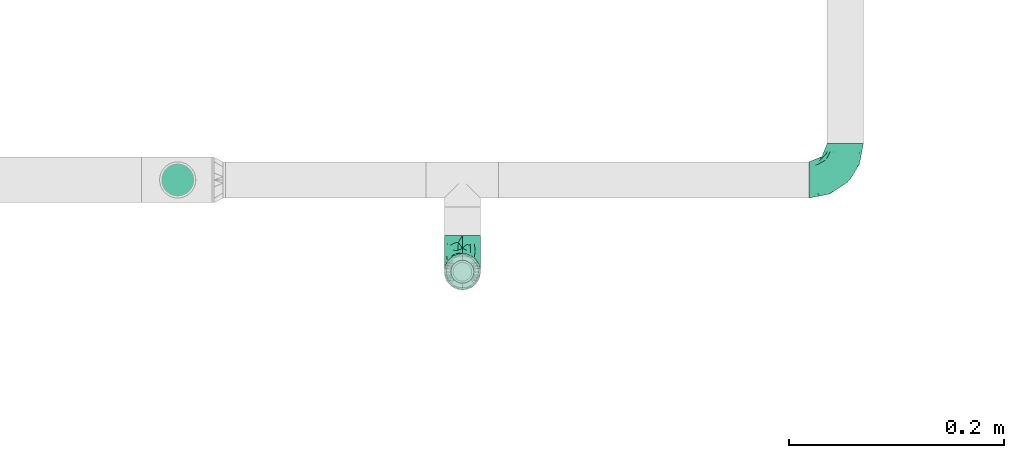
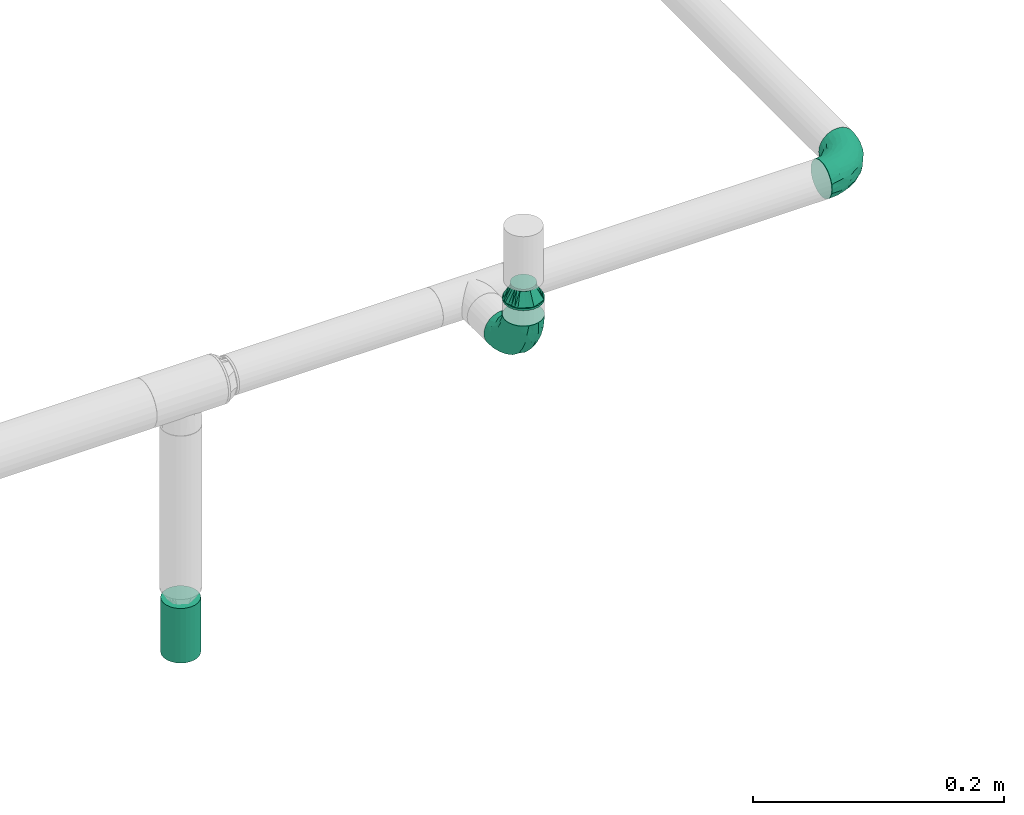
# One storey, part 68 of 95: 3 flow fittings, 1 flow terminal.
"""IFC2X3 building model written with IfcOpenShell, lengths in millimetres."""

import ifcopenshell
import ifcopenshell.guid

model = None  # the IFC model being written
_history = None  # IfcOwnerHistory: only IFC2X3 demands one
_inside = {}  # id of a spatial element -> (the spatial element, [elements in it])
_under = {}  # id of a project, library or spatial element -> (it, [spatial elements below it])
_declared = {}  # id of a project -> (the project, [libraries it declares])
_typed = {}  # id of a type object -> (the type object, [elements of that type])
_made_of = {}  # id of a material, layer set ... -> (it, [elements and type objects made of it])


def new_model(schema):
    """Start an empty IFC model of exactly this schema.

    Asked for "IFC4X3", IfcOpenShell would pick the latest addendum, in which some entities
    have other attributes; the version numbers below select the first issue.
    IFC2X3 requires an IfcOwnerHistory on every rooted entity: one is made here for all.
    """
    global model, _history
    if schema == "IFC4X3":
        model = ifcopenshell.file(schema_version=(4, 3, 0, 0))
    else:
        model = ifcopenshell.file(schema=schema)
    _inside.clear()
    _under.clear()
    _declared.clear()
    _typed.clear()
    _made_of.clear()
    _history = None
    if model.schema == "IFC2X3":
        org = make("IfcOrganization", Name="unknown")
        user = make(
            "IfcPersonAndOrganization",
            ThePerson=make("IfcPerson", FamilyName="unknown"),
            TheOrganization=org,
        )
        app = make(
            "IfcApplication",
            ApplicationDeveloper=org,
            Version="unknown",
            ApplicationFullName="unknown",
            ApplicationIdentifier="unknown",
        )
        _history = make(
            "IfcOwnerHistory",
            OwningUser=user,
            OwningApplication=app,
            ChangeAction="ADDED",
            CreationDate=0,
        )
    return model


def make(cls, **values):
    """One entity of the class cls with the attributes given. An attribute that is None is left unset."""
    return model.create_entity(
        cls, **{name: value for name, value in values.items() if value is not None}
    )


def entity(cls, *values):
    """Any entity or typed value of the class cls, its attributes in the order of the schema. None: left unset."""
    e = model.create_entity(cls)
    for i, value in enumerate(values):
        if value is not None:
            e[i] = value
    return e


def rooted(cls, **values):
    """An entity with a GlobalId (a new one), such as an element, a storey or a relation."""
    return make(cls, GlobalId=ifcopenshell.guid.new(), OwnerHistory=_history, **values)


def si_unit(unit_type, name, prefix=None):
    """IfcSIUnit, for example si_unit("LENGTHUNIT", "METRE", prefix="MILLI")."""
    return make("IfcSIUnit", UnitType=unit_type, Prefix=prefix, Name=name)


def converted_unit(unit_type, name, factor, base, dimensions=None, offset=None):
    """IfcConversionBasedUnit, such as the inch: factor (a typed value) times the base unit."""
    return make(
        "IfcConversionBasedUnit"
        if offset is None
        else "IfcConversionBasedUnitWithOffset",
        ConversionOffset=offset,
        Dimensions=None
        if dimensions is None
        else entity("IfcDimensionalExponents", *dimensions),
        UnitType=unit_type,
        Name=name,
        ConversionFactor=make(
            "IfcMeasureWithUnit", ValueComponent=factor, UnitComponent=base
        ),
    )


def derived_unit(unit_type, elements):
    """IfcDerivedUnit: a product of units, each with its exponent."""
    return make(
        "IfcDerivedUnit",
        Elements=[
            make("IfcDerivedUnitElement", Unit=unit, Exponent=power)
            for unit, power in elements
        ],
        UnitType=unit_type,
    )


def assignment(units):
    """IfcUnitAssignment: the units of a project."""
    return None if units is None else make("IfcUnitAssignment", Units=units)


def point(xyz):
    """IfcCartesianPoint."""
    return None if xyz is None else make("IfcCartesianPoint", Coordinates=xyz)


def direction(xyz):
    """IfcDirection."""
    return None if xyz is None else make("IfcDirection", DirectionRatios=xyz)


def frame(location, z_axis=None, x_axis=None):
    """IfcAxis2Placement3D, a coordinate frame: its origin and axes. An axis left out is left unset."""
    return make(
        "IfcAxis2Placement3D",
        Location=point(location),
        Axis=direction(z_axis),
        RefDirection=direction(x_axis),
    )


def origin_with_axes():
    """The frame at (0, 0, 0) with the z axis (0, 0, 1) and the x axis (1, 0, 0) written out."""
    return frame((0.0, 0.0, 0.0), z_axis=(0.0, 0.0, 1.0), x_axis=(1.0, 0.0, 0.0))


def place(relative_to, where):
    """IfcLocalPlacement: puts the frame where relative to a parent placement (None: the world)."""
    return make(
        "IfcLocalPlacement", PlacementRelTo=relative_to, RelativePlacement=where
    )


def context(
    kind, dimensions, precision=None, world=None, true_north=None, identifier=None
):
    """IfcGeometricRepresentationContext, for example the 3D "Model" context."""
    return make(
        "IfcGeometricRepresentationContext",
        ContextIdentifier=identifier,
        ContextType=kind,
        CoordinateSpaceDimension=dimensions,
        Precision=precision,
        WorldCoordinateSystem=world,
        TrueNorth=true_north,
    )


def subcontext(parent, identifier, kind, view, scale=None):
    """IfcGeometricRepresentationSubContext, for example "Body" below "Model"."""
    return make(
        "IfcGeometricRepresentationSubContext",
        ContextIdentifier=identifier,
        ContextType=kind,
        ParentContext=parent,
        TargetScale=scale,
        TargetView=view,
    )


def project(units=None, contexts=None):
    """IfcProject with its units and contexts."""
    return rooted(
        "IfcProject",
        Name="project",
        RepresentationContexts=contexts,
        UnitsInContext=assignment(units),
    )


def spatial(cls, under=None, at=None, **own):
    """A site, building, storey or space (cls), placed at a placement, below another one or the project."""
    s = rooted(cls, ObjectPlacement=at, **own)
    if under is not None:
        _under.setdefault(under.id(), (under, []))[1].append(s)
    return s


def faces_of(points, faces, orient=None, outer=None):
    """IfcFace entities. A face is a list of loops; a loop is a list of indices into points, from 0.

    orient and outer hold one flag for each loop. By default every Orientation is true, the
    first loop of a face is its IfcFaceOuterBound and the others are IfcFaceBound.
    """
    made = []
    for i, loops in enumerate(faces):
        bounds = []
        for j, loop in enumerate(loops):
            is_outer = j == 0 if outer is None else outer[i][j]
            bounds.append(
                make(
                    "IfcFaceOuterBound" if is_outer else "IfcFaceBound",
                    Bound=make("IfcPolyLoop", Polygon=[points[k] for k in loop]),
                    Orientation=True if orient is None else orient[i][j],
                )
            )
        made.append(make("IfcFace", Bounds=bounds))
    return made


def open_shell(faces, orient=None, outer=None):
    """The faces of one IfcOpenShell. surface_model builds it on its shared points."""
    return ("IfcOpenShell", faces, orient, outer)


def surface_model(cls, points, shells):
    """IfcFaceBasedSurfaceModel or IfcShellBasedSurfaceModel (cls): surfaces that need not close."""
    shared = [point(p) for p in points]
    made = [make(c, CfsFaces=faces_of(shared, fs, o, b)) for c, fs, o, b in shells]
    if cls == "IfcFaceBasedSurfaceModel":
        return make(cls, FbsmFaces=made)
    return make(cls, SbsmBoundary=made)


def shape(context_of_items, identifier, shape_type, items):
    """IfcShapeRepresentation: the items that make up one representation, for example the "Body"."""
    return make(
        "IfcShapeRepresentation",
        ContextOfItems=context_of_items,
        RepresentationIdentifier=identifier,
        RepresentationType=shape_type,
        Items=items,
    )


def source(mapping_origin, context_of_items, identifier, shape_type, items):
    """IfcRepresentationMap: a shape defined once, which mapped items show again and again."""
    return make(
        "IfcRepresentationMap",
        MappingOrigin=mapping_origin,
        MappedRepresentation=shape(context_of_items, identifier, shape_type, items),
    )


def transform(
    local_origin,
    x_axis=None,
    y_axis=None,
    z_axis=None,
    scale=None,
    scale2=None,
    scale3=None,
    uniform=True,
):
    """IfcCartesianTransformationOperator3D, or its non-uniform kind. x_axis, y_axis, z_axis: its Axis1, 2, 3."""
    if uniform:
        return make(
            "IfcCartesianTransformationOperator3D",
            Axis1=direction(x_axis),
            Axis2=direction(y_axis),
            LocalOrigin=point(local_origin),
            Scale=scale,
            Axis3=direction(z_axis),
        )
    return make(
        "IfcCartesianTransformationOperator3DnonUniform",
        Axis1=direction(x_axis),
        Axis2=direction(y_axis),
        LocalOrigin=point(local_origin),
        Scale=scale,
        Axis3=direction(z_axis),
        Scale2=scale2,
        Scale3=scale3,
    )


def mapped(mapping_source, mapping_target):
    """IfcMappedItem: shows the shape of a source again, moved by a transform."""
    return make(
        "IfcMappedItem", MappingSource=mapping_source, MappingTarget=mapping_target
    )


def made_of(thing, what):
    """Note that an element or type object is made of a material, layer set ...; save() writes the relation."""
    if what is not None:
        _made_of.setdefault(what.id(), (what, []))[1].append(thing)
    return thing


def type_object(cls, material=None, **own):
    """A type object (cls), such as IfcWallType, which elements share."""
    return made_of(rooted(cls, **own), material)


def element(
    cls,
    number,
    at=None,
    inside=None,
    cuts=None,
    type_object=None,
    material=None,
    context=None,
    identifier="Body",
    shape_type=None,
    held_by="IfcProductDefinitionShape",
    body=None,
    shapes=None,
    **own,
):
    """One element of the class cls, such as IfcWall. Its Tag is "e" and its number.

    at: its placement. inside: the storey or other place that contains it. cuts: it is an
    opening in that element (IfcRelVoidsElement). A single representation is given by context,
    identifier, shape_type and body (its items); several are given by shapes. held_by: the class
    of the entity that holds the representations. save() writes the other relations.
    """
    e = rooted(cls, Tag="e%d" % number, ObjectPlacement=at, **own)
    if body is not None:
        shapes = [shape(context, identifier, shape_type, body)]
    if shapes is not None:
        e.Representation = make(held_by, Representations=shapes)
    if inside is not None:
        _inside.setdefault(inside.id(), (inside, []))[1].append(e)
    if cuts is not None:
        rooted(
            "IfcRelVoidsElement", RelatingBuildingElement=cuts, RelatedOpeningElement=e
        )
    if type_object is not None:
        _typed.setdefault(type_object.id(), (type_object, []))[1].append(e)
    return made_of(e, material)


def aggregate(whole, parts):
    """IfcRelAggregates: a whole, such as a stair, and the parts it consists of."""
    return rooted("IfcRelAggregates", RelatingObject=whole, RelatedObjects=parts)


def save(model, path):
    """Write the relations noted so far, then the file.

    IfcRelAggregates (storeys below a building ...), IfcRelContainedInSpatialStructure (elements
    in a storey), IfcRelDefinesByType, IfcRelAssociatesMaterial and IfcRelDeclares: one each for
    every whole, place, type object, material and project.
    """
    for whole, parts in _under.values():
        aggregate(whole, parts)
    for where, things in _inside.values():
        rooted(
            "IfcRelContainedInSpatialStructure",
            RelatedElements=things,
            RelatingStructure=where,
        )
    for kind, things in _typed.values():
        rooted("IfcRelDefinesByType", RelatedObjects=things, RelatingType=kind)
    for what, things in _made_of.values():
        rooted("IfcRelAssociatesMaterial", RelatedObjects=things, RelatingMaterial=what)
    for by, libraries in _declared.values():
        rooted("IfcRelDeclares", RelatingContext=by, RelatedDefinitions=libraries)
    model.write(path)


model = new_model("IFC2X3")

# Units and contexts
model_context = context("Model", 3, precision=0.01, world=frame((0.0, 4.29681676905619e-09, 0.0)), true_north=direction((4.01073788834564e-13, 1.0)))
plan_context = context("Plan", 3, precision=0.01, world=frame((0.0, 4.29681676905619e-09, 0.0)), true_north=direction((4.01073788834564e-13, 1.0)))
body_context = subcontext(model_context, "Body", "Model", "MODEL_VIEW")
ifc_project = project(units=[converted_unit("PLANEANGLEUNIT", "DEGREE", entity("IfcPositiveLengthMeasure", 0.0174532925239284), si_unit("PLANEANGLEUNIT", "RADIAN"), dimensions=[0, 0, 0, 0, 0, 0, 0]), si_unit("AREAUNIT", "SQUARE_METRE"), si_unit("LENGTHUNIT", "METRE", prefix="MILLI"), si_unit("MASSUNIT", "GRAM", prefix="KILO"), si_unit("POWERUNIT", "WATT"), si_unit("PRESSUREUNIT", "PASCAL"), si_unit("FORCEUNIT", "NEWTON", prefix="KILO"), si_unit("ELECTRICVOLTAGEUNIT", "VOLT"), si_unit("ELECTRICCURRENTUNIT", "AMPERE"), si_unit("THERMODYNAMICTEMPERATUREUNIT", "DEGREE_CELSIUS"), si_unit("TIMEUNIT", "SECOND"), si_unit("VOLUMEUNIT", "CUBIC_METRE"), derived_unit("LINEARVELOCITYUNIT", [(si_unit("LENGTHUNIT", "METRE"), 1), (si_unit("TIMEUNIT", "SECOND"), -1)]), derived_unit("VOLUMETRICFLOWRATEUNIT", [(si_unit("VOLUMEUNIT", "CUBIC_METRE"), 1), (si_unit("TIMEUNIT", "SECOND"), -1)]), derived_unit("THERMALTRANSMITTANCEUNIT", [(si_unit("POWERUNIT", "WATT"), 1), (si_unit("THERMODYNAMICTEMPERATUREUNIT", "KELVIN"), -1), (si_unit("AREAUNIT", "SQUARE_METRE"), -1)]), derived_unit("SOUNDPRESSUREUNIT", [(si_unit("PRESSUREUNIT", "PASCAL"), 1)])], contexts=[model_context, plan_context])

# Site, building, storey
site_placement = place(None, frame((0.0, -4.29681676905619e-09, 0.0), z_axis=(0.0, 0.0, 1.0), x_axis=(1.0, 0.0, 0.0)))
site = spatial("IfcSite", under=ifc_project, at=site_placement, CompositionType="ELEMENT")
building_placement = place(site_placement, frame((0.0, 4.29681676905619e-09, 0.0), z_axis=(0.0, 0.0, 1.0), x_axis=(1.0, 0.0, 0.0)))
building = spatial("IfcBuilding", under=site, at=building_placement, Name="mc-building", CompositionType="ELEMENT")
storey_placement = place(building_placement, frame((0.0, 0.0, 210900.0), z_axis=(0.0, 0.0, 1.0), x_axis=(1.0, 0.0, 0.0)))
storey = spatial("IfcBuildingStorey", under=building, at=storey_placement, Name="Nivå F", CompositionType="ELEMENT", Elevation=210900.0)

# Flow fittings
pipe_fitting_type_1 = type_object("IfcPipeFittingType", Name="magi_pipe_fe_reducer_centric_short_NOR", PredefinedType="TRANSITION")
shared_shape_1 = source(origin_with_axes(), body_context, "Body", "SurfaceModel", [
    surface_model("IfcShellBasedSurfaceModel", [(14.4, 5.35, -9.26647), (14.4, 0.0, -10.7), (14.4, 2.76936, -10.33541), (14.4, 10.33541, -2.76936), (14.4, 7.56604, -7.56604), (14.4, -10.33541, -2.76936), (14.4, 9.26647, -5.35), (14.4, 0.0, 10.7), (14.4, -5.35, -9.26647), (14.4, -2.76936, -10.33541), (14.4, -7.56604, -7.56604), (14.4, -9.26647, -5.35), (14.4, 10.7, 0.0), (14.4, 10.33541, 2.76936), (14.4, 9.26647, 5.35), (14.4, 7.56604, 7.56604), (14.4, 2.76936, 10.33541), (14.4, 5.35, 9.26647), (14.4, -10.33541, 2.76936), (14.4, -7.56604, 7.56604), (14.4, -9.26647, 5.35), (14.4, -10.7, 0.0), (14.4, -2.76936, 10.33541), (14.4, -5.35, 9.26647), (12.4, 2.76936, 10.33541), (12.4, -10.33541, -2.76936), (12.4, 0.0, 10.7), (12.4, 5.35, 9.26647), (12.4, 7.56604, 7.56604), (12.4, 9.26647, 5.35), (12.4, 10.33541, 2.76936), (12.4, -10.33541, 2.76936), (12.4, -2.76936, 10.33541), (12.4, -7.56604, 7.56604), (12.4, -5.35, 9.26647), (12.4, -9.26647, 5.35), (12.4, -10.7, 0.0), (12.4, 10.33541, -2.76936), (12.4, 5.35, -9.26647), (12.4, 9.26647, -5.35), (12.4, 7.56604, -7.56604), (12.4, 2.76936, -10.33541), (12.4, -9.26647, -5.35), (12.4, -5.35, -9.26647), (12.4, -7.56604, -7.56604), (12.4, 0.0, -10.7), (12.4, -2.76936, -10.33541), (12.4, 10.7, 0.0), (-2.0, 11.9501, 11.9501), (-2.0, 0.0, 16.9), (-2.0, 4.37404, 16.32415), (-2.0, 8.45, 14.63583), (-2.0, 14.63583, 8.45), (-2.0, 16.32415, 4.37404), (-2.0, -16.32415, 4.37404), (-2.0, -8.45, 14.63583), (-2.0, -14.63583, 8.45), (-2.0, -11.9501, 11.9501), (-2.0, -4.37404, 16.32415), (-2.0, -16.32415, -4.37404), (-2.0, -16.9, 0.0), (-2.0, -8.45, -14.63583), (-2.0, 16.32415, -4.37404), (-2.0, 11.9501, -11.9501), (-2.0, 14.63583, -8.45), (-2.0, 8.45, -14.63583), (-2.0, 4.37404, -16.32415), (-2.0, 0.0, -16.9), (-2.0, -11.9501, -11.9501), (-2.0, -14.63583, -8.45), (-2.0, -4.37404, -16.32415), (-2.0, 16.9, 0.0), (0.0, 4.37404, -16.32415), (0.0, 8.45, -14.63583), (0.0, 11.9501, -11.9501), (0.0, 0.0, -16.9), (0.0, 16.32415, -4.37404), (0.0, 16.32415, 4.37404), (0.0, 14.63583, -8.45), (0.0, -8.45, -14.63583), (0.0, -4.37404, -16.32415), (0.0, -11.9501, -11.9501), (0.0, -16.32415, -4.37404), (0.0, -14.63583, -8.45), (0.0, -16.32415, 4.37404), (0.0, 16.9, 0.0), (0.0, 14.63583, 8.45), (0.0, 11.9501, 11.9501), (0.0, 4.37404, 16.32415), (0.0, 8.45, 14.63583), (0.0, 0.0, 16.9), (0.0, -14.63583, 8.45), (0.0, -16.9, 0.0), (0.0, -8.45, 14.63583), (0.0, -11.9501, 11.9501), (0.0, -4.37404, 16.32415), (12.4, 9.3625, -2.31662), (0.0, 14.42505, -5.97505), (0.0, 15.66253, -2.98753), (12.4, -6.6875, -6.94985), (0.0, -13.18758, -8.96258), (0.0, 2.98753, -15.66253), (12.4, 0.0, -9.26647), (12.4, 6.6875, -6.94985), (0.0, 8.96258, -13.18758), (12.4, -9.3625, -2.31662), (0.0, -15.66253, -2.98753), (0.0, -14.42505, -5.97505), (0.0, 5.97505, -14.42505), (0.0, -2.98753, -15.66253), (0.0, -8.96258, -13.18758), (0.0, 13.18758, -8.96258), (12.4, 8.025, -4.63324), (12.4, -2.675, -9.26647), (12.4, 2.675, -9.26647), (0.0, -5.97505, -14.42505), (12.4, -8.025, -4.63324), (12.4, -9.3625, 2.31662), (0.0, -14.42505, 5.97505), (0.0, -15.66253, 2.98753), (12.4, 6.6875, 6.94985), (0.0, 13.18758, 8.96258), (0.0, -2.98753, 15.66253), (12.4, 0.0, 9.26647), (12.4, -6.6875, 6.94985), (0.0, -8.96258, 13.18758), (12.4, 9.3625, 2.31662), (0.0, 15.66253, 2.98753), (0.0, 14.42505, 5.97505), (0.0, -5.97505, 14.42505), (0.0, 2.98753, 15.66253), (0.0, 8.96258, 13.18758), (0.0, -13.18758, 8.96258), (12.4, -8.025, 4.63324), (12.4, 2.675, 9.26647), (12.4, -2.675, 9.26647), (0.0, 5.97505, 14.42505), (12.4, 8.025, 4.63324)], [open_shell([[[0, 1, 2]], [[3, 0, 4]], [[5, 0, 3]], [[3, 4, 6]], [[7, 5, 3]], [[1, 8, 9]], [[1, 0, 8]], [[10, 5, 11]], [[5, 10, 8]], [[0, 5, 8]], [[3, 12, 13]], [[13, 14, 15]], [[13, 15, 16]], [[7, 3, 16]], [[16, 15, 17]], [[7, 18, 5]], [[18, 19, 20]], [[21, 5, 18]], [[19, 22, 23]], [[22, 19, 18]], [[7, 22, 18]], [[13, 16, 3]], [[24, 25, 26]], [[27, 25, 24]], [[28, 29, 30]], [[28, 25, 27]], [[31, 26, 25]], [[32, 33, 34]], [[33, 32, 31]], [[33, 31, 35]], [[32, 26, 31]], [[31, 25, 36]], [[30, 37, 28]], [[25, 28, 37]], [[38, 37, 39]], [[37, 38, 25]], [[38, 39, 40]], [[41, 25, 38]], [[42, 43, 44]], [[43, 42, 25]], [[43, 45, 46]], [[43, 25, 41]], [[41, 45, 43]], [[37, 30, 47]], [[25, 5, 36]], [[42, 11, 25]], [[8, 44, 43]], [[42, 44, 10]], [[9, 43, 46]], [[25, 11, 5]], [[5, 21, 36]], [[9, 8, 43]], [[10, 44, 8]], [[10, 11, 42]], [[1, 9, 46]], [[46, 45, 1]], [[41, 2, 45]], [[38, 0, 41]], [[6, 40, 39]], [[38, 40, 4]], [[3, 39, 37]], [[38, 4, 0]], [[0, 2, 41]], [[12, 3, 37]], [[6, 39, 3]], [[6, 4, 40]], [[47, 12, 37]], [[45, 2, 1]], [[30, 13, 47]], [[29, 14, 30]], [[17, 28, 27]], [[29, 28, 15]], [[16, 27, 24]], [[30, 14, 13]], [[13, 12, 47]], [[16, 17, 27]], [[15, 28, 17]], [[15, 14, 29]], [[7, 16, 24]], [[24, 26, 7]], [[32, 22, 26]], [[34, 23, 32]], [[20, 33, 35]], [[34, 33, 19]], [[18, 35, 31]], [[34, 19, 23]], [[23, 22, 32]], [[21, 18, 31]], [[20, 35, 18]], [[20, 19, 33]], [[36, 21, 31]], [[26, 22, 7]], [[48, 49, 50]], [[48, 50, 51]], [[48, 52, 53]], [[48, 53, 49]], [[49, 53, 54]], [[55, 56, 57]], [[55, 58, 49]], [[56, 55, 49]], [[49, 54, 56]], [[54, 59, 60]], [[54, 53, 61]], [[53, 62, 63]], [[63, 62, 64]], [[63, 65, 66]], [[61, 53, 63]], [[67, 63, 66]], [[59, 68, 69]], [[68, 59, 61]], [[61, 67, 70]], [[59, 54, 61]], [[63, 67, 61]], [[53, 71, 62]], [[72, 73, 74]], [[75, 72, 74]], [[74, 76, 77]], [[76, 74, 78]], [[74, 77, 79]], [[75, 79, 80]], [[75, 74, 79]], [[81, 82, 83]], [[82, 81, 79]], [[79, 84, 82]], [[77, 76, 85]], [[77, 86, 87]], [[77, 87, 88]], [[88, 84, 79]], [[88, 87, 89]], [[84, 88, 90]], [[90, 91, 84]], [[92, 82, 84]], [[91, 93, 94]], [[91, 90, 93]], [[93, 90, 95]], [[79, 77, 88]], [[59, 82, 60]], [[69, 83, 59]], [[79, 68, 61]], [[69, 68, 81]], [[80, 61, 70]], [[59, 83, 82]], [[82, 92, 60]], [[80, 79, 61]], [[81, 68, 79]], [[81, 83, 69]], [[75, 80, 70]], [[70, 67, 75]], [[66, 72, 67]], [[65, 73, 66]], [[78, 63, 64]], [[65, 63, 74]], [[76, 64, 62]], [[65, 74, 73]], [[73, 72, 66]], [[85, 76, 62]], [[78, 64, 76]], [[78, 74, 63]], [[71, 85, 62]], [[67, 72, 75]], [[53, 77, 71]], [[52, 86, 53]], [[89, 48, 51]], [[52, 48, 87]], [[88, 51, 50]], [[53, 86, 77]], [[77, 85, 71]], [[88, 89, 51]], [[87, 48, 89]], [[87, 86, 52]], [[90, 88, 50]], [[50, 49, 90]], [[58, 95, 49]], [[55, 93, 58]], [[91, 57, 56]], [[55, 57, 94]], [[84, 56, 54]], [[55, 94, 93]], [[93, 95, 58]], [[92, 84, 54]], [[91, 56, 84]], [[91, 94, 57]], [[60, 92, 54]], [[49, 95, 90]], [[27, 34, 47]], [[47, 34, 43]], [[43, 38, 47]], [[43, 34, 36]], [[90, 87, 94]], [[92, 94, 87]], [[87, 74, 92]], [[75, 92, 74]], [[81, 92, 75]], [[74, 87, 85]], [[96, 97, 98]], [[81, 99, 100]], [[101, 102, 75]], [[98, 85, 47]], [[74, 103, 104]], [[104, 103, 38]], [[105, 106, 107]], [[38, 108, 104]], [[102, 109, 75]], [[110, 99, 81]], [[47, 96, 98]], [[103, 111, 112]], [[109, 102, 113]], [[36, 92, 106]], [[102, 101, 114]], [[110, 115, 43]], [[96, 112, 97]], [[107, 116, 105]], [[36, 106, 105]], [[113, 115, 109]], [[43, 115, 113]], [[116, 107, 100]], [[108, 38, 114]], [[111, 103, 74]], [[111, 97, 112]], [[99, 110, 43]], [[116, 100, 99]], [[101, 108, 114]], [[117, 118, 119]], [[87, 120, 121]], [[122, 123, 90]], [[119, 92, 36]], [[94, 124, 125]], [[125, 124, 34]], [[126, 127, 128]], [[34, 129, 125]], [[123, 130, 90]], [[131, 120, 87]], [[36, 117, 119]], [[124, 132, 133]], [[130, 123, 134]], [[47, 85, 127]], [[123, 122, 135]], [[131, 136, 27]], [[117, 133, 118]], [[128, 137, 126]], [[47, 127, 126]], [[134, 136, 130]], [[27, 136, 134]], [[137, 128, 121]], [[129, 34, 135]], [[132, 124, 94]], [[132, 118, 133]], [[120, 131, 27]], [[137, 121, 120]], [[122, 129, 135]]])]),
])
flow_fitting_placement = place(storey_placement, frame((521865.41856, 456734.42495, 2650.78069000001), z_axis=(-1.0, 0.0, 0.0), x_axis=(0.0, 0.0, 1.0)))
element("IfcFlowFitting", 1, at=flow_fitting_placement, inside=storey, type_object=pipe_fitting_type_1, Name="magi_pipe_fe_reducer_centric_short_NOR", context=body_context, shape_type="MappedRepresentation", body=[
    mapped(shared_shape_1, transform((0.0, 0.0, 0.0), scale=1.0)),
])
pipe_fitting_type_2 = type_object("IfcPipeFittingType", Name="magi_pipe_fe_elbow_short_001", PredefinedType="BEND")
shared_shape_2 = source(origin_with_axes(), body_context, "Body", "SurfaceModel", [
    surface_model("IfcShellBasedSurfaceModel", [(-33.8, 8.45, -14.63583), (-33.8, 4.37404, -16.32415), (-33.8, 11.9501, -11.9501), (-33.8, -11.9501, -11.9501), (-33.8, -14.63583, -8.45), (-33.8, -8.45, -14.63583), (-33.8, 0.0, -16.9), (-33.8, -4.37404, -16.32415), (-33.8, -4.37404, 16.32415), (-33.8, 0.0, 16.9), (-33.8, -8.45, 14.63583), (-33.8, 16.32415, -4.37404), (-33.8, 14.63583, -8.45), (-33.8, -16.32415, -4.37404), (-33.8, -16.9, 0.0), (-33.8, -16.32415, 4.37404), (-33.8, 11.9501, 11.9501), (-33.8, 14.63583, 8.45), (-33.8, 16.32415, 4.37404), (-33.8, 4.37404, 16.32415), (-33.8, 8.45, 14.63583), (-33.8, -14.63583, 8.45), (-33.8, -11.9501, 11.9501), (-33.8, 16.9, 0.0), (-11.9501, 33.8, -11.9501), (0.0, 33.8, -16.9), (-4.37404, 33.8, -16.32415), (-8.45, 33.8, -14.63583), (-14.63583, 33.8, -8.45), (-16.32415, 33.8, -4.37404), (14.63583, 33.8, -8.45), (8.45, 33.8, 14.63583), (16.32415, 33.8, -4.37404), (8.45, 33.8, -14.63583), (11.9501, 33.8, -11.9501), (4.37404, 33.8, -16.32415), (16.32415, 33.8, 4.37404), (16.9, 33.8, 0.0), (-11.9501, 33.8, 11.9501), (-16.32415, 33.8, 4.37404), (-14.63583, 33.8, 8.45), (-8.45, 33.8, 14.63583), (-4.37404, 33.8, 16.32415), (11.9501, 33.8, 11.9501), (14.63583, 33.8, 8.45), (0.0, 33.8, 16.9), (4.37404, 33.8, 16.32415), (-16.9, 33.8, 0.0), (-24.79389, -13.12945, 9.48721), (-22.19287, -9.75018, 12.59315), (-24.09897, -14.97035, 0.0), (-14.93934, -10.76256, 8.5297), (-22.46095, -14.75051, 5.27077), (14.75051, 22.46094, 5.27077), (11.9251, 13.23888, 4.33236), (13.04069, 14.39795, 0.0), (7.71387, 13.68847, 11.55891), (9.75018, 22.19287, 12.59315), (4.10169, 13.0571, 14.04018), (-24.84007, -6.39063, 15.2048), (-25.81779, -2.23879, 16.61097), (-23.66549, 2.59054, 16.87119), (-26.50418, 14.06512, 11.08152), (-24.21253, 17.66365, 7.72657), (-29.58514, 15.86957, 7.00283), (-6.17382, -7.5455, 0.0), (-13.23888, -11.9251, 4.33236), (-14.39795, -13.04069, 0.0), (-17.81434, 18.87373, 11.97104), (-6.30846, 29.15138, 15.82987), (-2.31622, 25.28002, 16.85849), (-29.23923, 10.23435, 13.77053), (-1.45439, -2.85688, 7.61475), (-0.28326, 0.34872, 10.09509), (-5.74484, -4.04709, 10.4122), (-4.41137, 11.31918, 16.59407), (-8.39727, 3.10034, 15.7812), (-1.72649, 9.1306, 15.53089), (-17.39909, 24.75344, 7.64977), (-26.19233, 20.0512, 0.0), (-28.14518, 17.29657, 4.25857), (-26.05147, 6.6281, 15.96447), (-5.87354, 16.61944, 16.86968), (-12.51807, 12.51807, 16.48937), (-10.06312, 7.38516, 16.81295), (-3.01882, 3.01882, 13.81718), (-13.0571, -4.10169, 14.04018), (-16.82553, -0.15166, 16.38038), (10.76256, 14.93934, 8.5297), (13.12945, 24.79389, 9.48721), (6.39063, 24.84007, 15.2048), (2.23879, 25.81779, 16.61097), (-13.68847, -7.71387, 11.55891), (14.97035, 24.09897, 0.0), (-7.30894, 22.89991, 16.09489), (-10.67958, 26.17414, 14.008), (-12.78295, 18.26924, 15.06066), (-13.88562, 22.45231, 12.93244), (-18.04944, 15.16501, 14.04434), (-23.11658, 20.08178, 4.02986), (-21.84989, 21.84989, 0.0), (-18.55817, 25.48277, 3.93065), (-13.95142, 26.94732, 11.03289), (-18.57098, 7.23906, 16.59756), (-16.58335, 4.14122, 16.89279), (-17.96666, 11.46709, 15.63151), (-9.84453, 17.54304, 16.18938), (0.15166, 16.82553, 16.38038), (-23.27207, 11.47201, 14.23154), (3.84842, 5.86994, 10.70473), (-8.0212, -7.54413, 7.93275), (1.00345, -2.19508, 4.57414), (5.13203, 3.01004, 5.90201), (5.24161, 1.7543, 2.53265), (8.70457, 7.04947, 3.99182), (-20.0512, 26.19233, 0.0), (8.4852, 8.76699, 7.09296), (-4.55488, -6.72064, 4.90681), (2.05031, -2.05031, 0.0), (7.5455, 6.17382, 0.0), (-26.75399, 2.1369, -16.845), (-14.61995, 24.73803, -11.27736), (-28.45274, -13.45335, -9.81895), (-26.00469, 6.63555, -15.96645), (-23.06726, 20.04573, -4.26202), (-13.80647, -4.26506, -14.17873), (-14.67501, -0.21081, -16.07388), (-6.7902, -0.2828, -13.8478), (-24.53586, 11.08096, -14.13417), (-26.72048, 14.00837, -11.05776), (10.0967, 24.44989, -12.75976), (5.83237, 21.40218, -15.03047), (6.66249, 28.54238, -15.38093), (-20.38182, 15.48705, -12.74596), (12.53268, 21.23441, -9.15363), (12.54494, 15.67504, -5.54878), (9.7522, 12.89279, -8.66343), (-15.65186, 19.64213, -13.01327), (-12.03528, 20.66498, -14.67665), (-15.61907, 15.61906, -14.83879), (-25.56551, -15.26206, 0.0), (-24.65452, -15.12934, -5.50955), (13.45335, 28.45274, -9.81895), (15.12934, 24.65452, -5.50955), (-7.35442, -8.31014, -5.65563), (-15.67504, -12.54494, -5.54878), (-24.44989, -10.0967, -12.75976), (0.16522, 0.41303, -9.71728), (-5.70658, -5.33066, -8.89288), (-5.13869, -2.37198, -11.53565), (-21.23441, -12.53268, -9.15363), (0.71146, 7.93863, -14.09382), (0.21081, 14.67501, -16.07388), (3.49291, 14.42772, -14.76381), (-24.89911, -2.13088, -16.591), (-28.54238, -6.66249, -15.38093), (-18.44386, -7.71663, -13.26957), (2.13088, 24.89911, -16.591), (-28.64342, 17.44413, -2.89318), (1.70017, -1.28722, -5.09504), (-16.57067, 26.81947, -7.36596), (-17.69055, 27.4263, -3.76405), (-12.89279, -9.7522, -8.66343), (-5.96611, 5.96611, -15.95814), (-20.53709, 20.09345, -8.28985), (-2.1369, 26.75399, -16.845), (-6.89872, 24.58781, -16.02578), (-10.60739, 26.53157, -13.98044), (-21.40218, -5.83237, -15.03047), (2.93192, 5.89627, -11.55917), (6.89393, 12.61842, -11.82233), (5.58056, 5.95325, -8.79455), (-3.99512, 18.61798, -16.89635), (8.31014, 7.35442, -5.65563), (-9.1383, 9.86148, -16.89041), (-9.99983, 16.02119, -16.39699), (-16.68576, 9.78031, -16.34199), (-27.01915, 16.61158, -7.12979), (15.26206, 25.56551, 0.0), (-18.61798, 3.99512, -16.89635), (-19.37495, 27.82495, 0.0), (-12.61842, -6.89393, -11.82233), (-18.84705, 19.14018, -10.96545)], [open_shell([[[0, 1, 2]], [[3, 4, 5]], [[6, 7, 5]], [[8, 9, 10]], [[1, 6, 2]], [[11, 12, 2]], [[4, 2, 6]], [[2, 13, 10]], [[5, 4, 6]], [[2, 4, 13]], [[14, 15, 13]], [[11, 2, 16]], [[11, 17, 18]], [[11, 16, 17]], [[19, 20, 16]], [[16, 2, 10]], [[19, 16, 10]], [[21, 22, 15]], [[22, 13, 15]], [[22, 10, 13]], [[10, 9, 19]], [[11, 18, 23]], [[24, 25, 26]], [[24, 26, 27]], [[24, 28, 29]], [[25, 24, 30]], [[31, 32, 24]], [[33, 30, 34]], [[33, 35, 25]], [[25, 30, 33]], [[32, 30, 24]], [[32, 36, 37]], [[38, 24, 29]], [[39, 40, 29]], [[40, 38, 29]], [[38, 41, 42]], [[38, 31, 24]], [[31, 38, 42]], [[36, 43, 44]], [[36, 32, 43]], [[31, 45, 46]], [[32, 31, 43]], [[42, 45, 31]], [[39, 29, 47]], [[22, 48, 49]], [[15, 14, 50]], [[51, 48, 52]], [[53, 54, 55]], [[48, 22, 21]], [[15, 52, 21]], [[56, 57, 58]], [[49, 10, 22]], [[49, 59, 10]], [[9, 60, 61]], [[62, 63, 64]], [[65, 66, 67]], [[57, 43, 31]], [[62, 68, 63]], [[42, 69, 70]], [[20, 71, 16]], [[8, 60, 9]], [[72, 73, 74]], [[75, 76, 77]], [[16, 62, 17]], [[40, 39, 78]], [[79, 23, 80]], [[64, 18, 17]], [[9, 61, 19]], [[19, 81, 20]], [[82, 83, 84]], [[74, 85, 86]], [[59, 86, 87]], [[88, 89, 57]], [[90, 31, 46]], [[44, 53, 36]], [[46, 45, 91]], [[54, 53, 88]], [[44, 89, 53]], [[92, 86, 49]], [[89, 44, 43]], [[10, 59, 8]], [[53, 55, 93]], [[93, 36, 53]], [[66, 52, 67]], [[94, 82, 70]], [[95, 96, 94]], [[97, 98, 96]], [[79, 99, 100]], [[41, 38, 95]], [[101, 100, 99]], [[68, 78, 63]], [[42, 41, 69]], [[23, 18, 80]], [[95, 94, 69]], [[78, 101, 99]], [[38, 102, 95]], [[70, 45, 42]], [[97, 95, 102]], [[15, 50, 52]], [[90, 57, 31]], [[57, 90, 58]], [[81, 19, 61]], [[103, 104, 84]], [[105, 81, 103]], [[38, 40, 102]], [[106, 96, 83]], [[94, 106, 82]], [[91, 70, 107]], [[71, 62, 16]], [[62, 108, 98]], [[86, 59, 49]], [[67, 52, 50]], [[60, 59, 87]], [[92, 49, 51]], [[86, 85, 76]], [[91, 90, 46]], [[37, 36, 93]], [[107, 77, 58]], [[107, 58, 90]], [[58, 85, 109]], [[110, 74, 92]], [[72, 74, 110]], [[66, 51, 52]], [[72, 111, 112]], [[113, 114, 112]], [[56, 88, 57]], [[52, 48, 21]], [[49, 48, 51]], [[57, 89, 43]], [[53, 89, 88]], [[103, 81, 61]], [[71, 81, 108]], [[18, 64, 80]], [[63, 78, 99]], [[47, 115, 101]], [[101, 115, 100]], [[40, 78, 102]], [[68, 102, 78]], [[97, 96, 95]], [[105, 98, 108]], [[103, 84, 83]], [[107, 70, 82]], [[76, 84, 87]], [[82, 84, 75]], [[70, 91, 45]], [[90, 91, 107]], [[59, 60, 8]], [[61, 60, 87]], [[73, 85, 74]], [[109, 112, 116]], [[103, 61, 104]], [[105, 103, 83]], [[96, 105, 83]], [[81, 105, 108]], [[96, 98, 105]], [[62, 98, 68]], [[61, 87, 104]], [[87, 84, 104]], [[86, 76, 87]], [[77, 76, 85]], [[58, 77, 85]], [[75, 77, 107]], [[82, 75, 107]], [[76, 75, 84]], [[81, 71, 20]], [[62, 71, 108]], [[95, 69, 41]], [[70, 69, 94]], [[62, 64, 17]], [[80, 63, 99]], [[63, 80, 64]], [[80, 99, 79]], [[66, 65, 117]], [[110, 66, 117]], [[112, 114, 116]], [[118, 117, 65]], [[110, 92, 51]], [[112, 111, 113]], [[119, 55, 54]], [[74, 86, 92]], [[58, 109, 56]], [[116, 56, 109]], [[66, 110, 51]], [[72, 110, 117]], [[111, 72, 117]], [[73, 112, 109]], [[117, 118, 111]], [[113, 111, 118]], [[118, 119, 113]], [[114, 119, 54]], [[119, 114, 113]], [[116, 54, 88]], [[54, 116, 114]], [[116, 88, 56]], [[112, 73, 72]], [[85, 73, 109]], [[78, 39, 101]], [[47, 101, 39]], [[102, 68, 97]], [[97, 68, 98]], [[82, 106, 83]], [[94, 96, 106]], [[1, 120, 6]], [[28, 24, 121]], [[3, 122, 4]], [[0, 123, 1]], [[100, 124, 79]], [[125, 126, 127]], [[128, 2, 129]], [[130, 131, 132]], [[128, 129, 133]], [[134, 135, 136]], [[137, 138, 139]], [[128, 0, 2]], [[67, 140, 141]], [[134, 142, 143]], [[141, 13, 4]], [[144, 65, 145]], [[146, 3, 5]], [[147, 148, 149]], [[145, 141, 150]], [[151, 152, 153]], [[154, 7, 6]], [[5, 155, 146]], [[150, 146, 156]], [[155, 5, 7]], [[143, 135, 134]], [[35, 157, 25]], [[23, 79, 158]], [[148, 159, 144]], [[160, 161, 29]], [[145, 162, 144]], [[163, 152, 151]], [[29, 28, 160]], [[121, 164, 160]], [[33, 34, 130]], [[25, 165, 26]], [[26, 165, 166]], [[142, 34, 30]], [[24, 27, 167]], [[124, 161, 164]], [[157, 35, 132]], [[155, 154, 168]], [[123, 0, 128]], [[169, 170, 171]], [[172, 157, 152]], [[26, 166, 27]], [[132, 35, 33]], [[142, 130, 34]], [[168, 154, 126]], [[136, 135, 173]], [[133, 137, 139]], [[2, 12, 129]], [[170, 131, 130]], [[30, 32, 143]], [[172, 174, 175]], [[176, 123, 128]], [[158, 177, 11]], [[135, 55, 119]], [[167, 27, 166]], [[175, 166, 172]], [[137, 167, 138]], [[122, 141, 4]], [[140, 14, 13]], [[32, 37, 178]], [[170, 130, 134]], [[152, 157, 131]], [[165, 157, 172]], [[153, 170, 151]], [[152, 163, 174]], [[168, 125, 156]], [[122, 146, 150]], [[120, 154, 6]], [[179, 174, 126]], [[179, 126, 154]], [[126, 163, 127]], [[162, 145, 150]], [[140, 13, 141]], [[32, 178, 143]], [[55, 143, 178]], [[177, 129, 12]], [[128, 133, 139]], [[176, 128, 139]], [[120, 123, 179]], [[121, 160, 28]], [[161, 100, 180]], [[166, 175, 138]], [[121, 24, 167]], [[161, 47, 29]], [[79, 124, 158]], [[124, 164, 177]], [[161, 124, 100]], [[136, 171, 170]], [[127, 163, 151]], [[147, 171, 159]], [[148, 144, 162]], [[127, 151, 169]], [[127, 181, 125]], [[129, 177, 164]], [[12, 11, 177]], [[159, 65, 144]], [[67, 141, 145]], [[143, 55, 135]], [[135, 119, 173]], [[123, 120, 1]], [[154, 120, 179]], [[157, 165, 25]], [[166, 165, 172]], [[172, 152, 174]], [[176, 139, 175]], [[126, 174, 163]], [[176, 174, 179]], [[174, 176, 175]], [[123, 176, 179]], [[150, 181, 162]], [[127, 149, 181]], [[181, 148, 162]], [[159, 148, 147]], [[171, 136, 173]], [[170, 134, 136]], [[159, 171, 173]], [[171, 147, 169]], [[169, 147, 149]], [[151, 170, 169]], [[164, 182, 129]], [[182, 121, 137]], [[181, 149, 148]], [[169, 149, 127]], [[182, 137, 133]], [[167, 137, 121]], [[166, 138, 167]], [[175, 139, 138]], [[129, 182, 133]], [[121, 182, 164]], [[161, 160, 164]], [[47, 161, 180]], [[177, 158, 124]], [[23, 158, 11]], [[130, 132, 33]], [[157, 132, 131]], [[143, 142, 30]], [[130, 142, 134]], [[154, 155, 7]], [[146, 155, 168]], [[146, 122, 3]], [[141, 122, 150]], [[152, 131, 153]], [[159, 119, 118]], [[67, 145, 65]], [[170, 153, 131]], [[119, 159, 173]], [[159, 118, 65]], [[156, 125, 181]], [[126, 125, 168]], [[150, 156, 181]], [[168, 156, 146]]])]),
])
for number, where, z_axis, x_axis, name in (
    (2, (522222.4, 456820.05824, 2600.0), (0.0, 0.0, 1.0), (1.0, 0.0, 0.0), "magi_pipe_fe_elbow_short_001"),
    (3, (521865.41856, 456734.42495, 2600.0), (1.0, 0.0, 0.0), (0.0, 0.0, -1.0), "magi_pipe_fe_elbow_short_001"),
):
    element("IfcFlowFitting", number, at=place(storey_placement, frame(where, z_axis=z_axis, x_axis=x_axis)), inside=storey, type_object=pipe_fitting_type_2, Name=name, context=body_context, shape_type="MappedRepresentation", body=[
        mapped(shared_shape_2, transform((0.0, 0.0, 0.0), scale=1.0)),
    ])

# Flow terminal
fire_suppression_terminal_type = type_object("IfcFireSuppressionTerminalType", Name="SP-15-K80-68DGR-STD-HIMLING", PredefinedType="NOTDEFINED")
shared_shape_3 = source(origin_with_axes(), body_context, "Body", "SurfaceModel", [
    surface_model("IfcShellBasedSurfaceModel", [(4.1411, -15.45481, 53.0), (8.0, -13.85641, 53.0), (11.31371, -11.31371, 53.0), (-8.0, -13.85641, 53.0), (15.45481, -4.1411, 53.0), (16.0, 0.0, 53.0), (13.85641, -8.0, 53.0), (0.0, -16.0, 53.0), (-4.1411, -15.45481, 53.0), (-13.85641, -8.0, 53.0), (-11.31371, -11.31371, 53.0), (-15.45481, -4.1411, 53.0), (15.45481, 4.1411, 53.0), (13.85641, 8.0, 53.0), (11.31371, 11.31371, 53.0), (-4.1411, 15.45481, 53.0), (8.0, 13.85641, 53.0), (4.1411, 15.45481, 53.0), (0.0, 16.0, 53.0), (-13.85641, 8.0, 53.0), (-15.45481, 4.1411, 53.0), (-16.0, 0.0, 53.0), (-11.31371, 11.31371, 53.0), (-8.0, 13.85641, 53.0), (0.0, 16.0, 0.0), (4.1411, 15.45481, 0.0), (8.0, 13.85641, 0.0), (-4.1411, 15.45481, 0.0), (11.31371, 11.31371, 0.0), (13.85641, 8.0, 0.0), (15.45481, 4.1411, 0.0), (-15.45481, -4.1411, 0.0), (-11.31371, 11.31371, 0.0), (-8.0, 13.85641, 0.0), (-13.85641, 8.0, 0.0), (-15.45481, 4.1411, 0.0), (-16.0, 0.0, 0.0), (4.1411, -15.45481, 0.0), (16.0, 0.0, 0.0), (15.45481, -4.1411, 0.0), (13.85641, -8.0, 0.0), (11.31371, -11.31371, 0.0), (8.0, -13.85641, 0.0), (-8.0, -13.85641, 0.0), (-13.85641, -8.0, 0.0), (-11.31371, -11.31371, 0.0), (0.0, -16.0, 0.0), (-4.1411, -15.45481, 0.0)], [open_shell([[[0, 1, 2]], [[3, 0, 2]], [[4, 5, 2]], [[4, 2, 6]], [[3, 2, 5]], [[7, 3, 8]], [[7, 0, 3]], [[3, 9, 10]], [[9, 3, 11]], [[5, 11, 3]], [[5, 12, 11]], [[12, 13, 14]], [[15, 12, 14]], [[16, 17, 18]], [[14, 16, 15]], [[18, 15, 16]], [[11, 19, 20]], [[21, 11, 20]], [[22, 15, 23]], [[15, 22, 19]], [[19, 11, 15]], [[11, 12, 15]], [[24, 25, 26]], [[27, 24, 26]], [[28, 29, 30]], [[27, 26, 28]], [[27, 28, 31]], [[27, 32, 33]], [[32, 27, 34]], [[34, 31, 35]], [[31, 34, 27]], [[35, 31, 36]], [[28, 30, 31]], [[37, 38, 39]], [[37, 39, 40]], [[41, 42, 37]], [[41, 37, 40]], [[38, 37, 43]], [[44, 43, 45]], [[43, 44, 31]], [[43, 46, 47]], [[43, 31, 38]], [[37, 46, 43]], [[38, 31, 30]], [[11, 31, 44]], [[45, 9, 44]], [[3, 43, 47]], [[45, 43, 10]], [[8, 47, 46]], [[31, 21, 36]], [[31, 11, 21]], [[44, 9, 11]], [[45, 10, 9]], [[3, 10, 43]], [[47, 8, 3]], [[46, 7, 8]], [[0, 37, 42]], [[41, 1, 42]], [[6, 40, 39]], [[41, 40, 2]], [[4, 39, 38]], [[37, 0, 7]], [[42, 1, 0]], [[41, 2, 1]], [[40, 6, 2]], [[4, 6, 39]], [[38, 5, 4]], [[37, 7, 46]], [[12, 38, 30]], [[13, 30, 29]], [[16, 26, 25]], [[17, 25, 24]], [[30, 13, 12]], [[12, 5, 38]], [[28, 14, 13]], [[28, 26, 14]], [[14, 26, 16]], [[25, 17, 16]], [[28, 13, 29]], [[24, 18, 17]], [[15, 27, 33]], [[32, 23, 33]], [[19, 34, 35]], [[32, 34, 22]], [[20, 35, 36]], [[27, 15, 18]], [[33, 23, 15]], [[32, 22, 23]], [[34, 19, 22]], [[20, 19, 35]], [[36, 21, 20]], [[27, 18, 24]]])]),
])
flow_terminal_placement = place(storey_placement, frame((521600.0, 456820.05824, 2400.0), z_axis=(0.0, 0.0, -1.0), x_axis=(-1.0, 0.0, 0.0)))
element("IfcFlowTerminal", 4, at=flow_terminal_placement, inside=storey, type_object=fire_suppression_terminal_type, Name="SP-15-K80-68DGR-STD-HIMLING", context=body_context, shape_type="MappedRepresentation", body=[
    mapped(shared_shape_3, transform((0.0, 0.0, 0.0), scale=1.0)),
])

save(model, "model.ifc")
